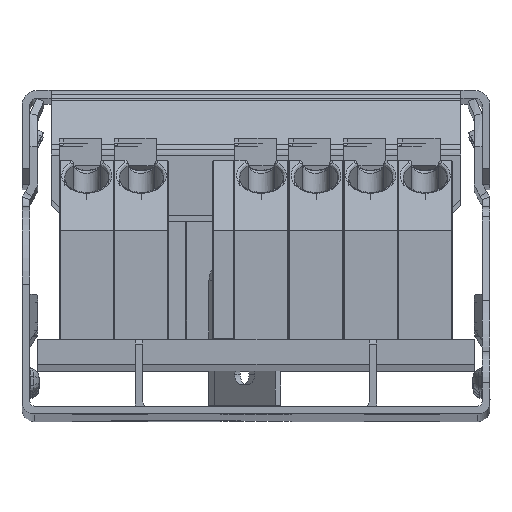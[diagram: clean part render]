
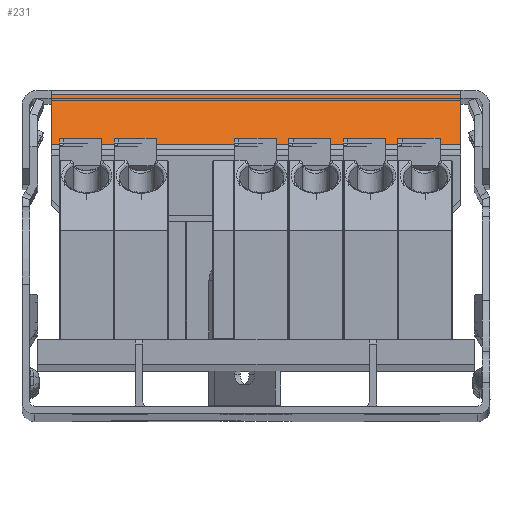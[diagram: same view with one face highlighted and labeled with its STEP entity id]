
A CAD part, top view. The second image highlights one B-rep face of the part: STEP entity #231.
In plain terms, the highlighted planar face has unit normal (0, 0.707, 0.707).
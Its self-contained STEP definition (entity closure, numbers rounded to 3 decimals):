
#129 = CARTESIAN_POINT ( 'NONE',  ( 1.865, -152.447, 168.448 ) ) ;
#231 = ADVANCED_FACE ( 'NONE', ( #37123 ), #27112, .T. ) ;
#253 = LINE ( 'NONE', #4051, #38487 ) ;
#3594 = LINE ( 'NONE', #4380, #22746 ) ;
#4051 = CARTESIAN_POINT ( 'NONE',  ( 28.135, -154.026, 170.026 ) ) ;
#4380 = CARTESIAN_POINT ( 'NONE',  ( 15., -152.447, 168.448 ) ) ;
#5010 = CARTESIAN_POINT ( 'NONE',  ( 1.865, -154.026, 170.026 ) ) ;
#5556 = CARTESIAN_POINT ( 'NONE',  ( 28.661, -152.232, 168.232 ) ) ;
#6738 = VECTOR ( 'NONE', #30178, 1000. ) ;
#7044 = EDGE_LOOP ( 'NONE', ( #27822, #17769, #29243, #29688 ) ) ;
#8439 = CARTESIAN_POINT ( 'NONE',  ( 15., -155.604, 171.604 ) ) ;
#9141 = DIRECTION ( 'NONE',  ( 0., 0.707, 0.707 ) ) ;
#9205 = CARTESIAN_POINT ( 'NONE',  ( 1.865, -155.604, 171.604 ) ) ;
#17769 = ORIENTED_EDGE ( 'NONE', *, *, #33867, .F. ) ;
#20080 = CARTESIAN_POINT ( 'NONE',  ( 28.135, -152.447, 168.448 ) ) ;
#22746 = VECTOR ( 'NONE', #40346, 1000. ) ;
#24305 = CARTESIAN_POINT ( 'NONE',  ( 28.135, -155.604, 171.604 ) ) ;
#26134 = DIRECTION ( 'NONE',  ( -1., 0., 0. ) ) ;
#27112 = PLANE ( 'NONE',  #36592 ) ;
#27822 = ORIENTED_EDGE ( 'NONE', *, *, #45829, .T. ) ;
#29216 = DIRECTION ( 'NONE',  ( 0., -0.707, 0.707 ) ) ;
#29243 = ORIENTED_EDGE ( 'NONE', *, *, #31905, .F. ) ;
#29688 = ORIENTED_EDGE ( 'NONE', *, *, #29758, .F. ) ;
#29758 = EDGE_CURVE ( 'NONE', #44894, #37205, #253, .T. ) ;
#30178 = DIRECTION ( 'NONE',  ( 0., 0.707, -0.707 ) ) ;
#31905 = EDGE_CURVE ( 'NONE', #37205, #46045, #35050, .T. ) ;
#33867 = EDGE_CURVE ( 'NONE', #46045, #44511, #44957, .T. ) ;
#34338 = DIRECTION ( 'NONE',  ( -1., 0., 0. ) ) ;
#35050 = LINE ( 'NONE', #8439, #43433 ) ;
#36592 = AXIS2_PLACEMENT_3D ( 'NONE', #5556, #9141, #34338 ) ;
#37123 = FACE_OUTER_BOUND ( 'NONE', #7044, .T. ) ;
#37205 = VERTEX_POINT ( 'NONE', #24305 ) ;
#38487 = VECTOR ( 'NONE', #29216, 1000. ) ;
#40346 = DIRECTION ( 'NONE',  ( -1., 0., 0. ) ) ;
#43433 = VECTOR ( 'NONE', #26134, 1000. ) ;
#44511 = VERTEX_POINT ( 'NONE', #129 ) ;
#44894 = VERTEX_POINT ( 'NONE', #20080 ) ;
#44957 = LINE ( 'NONE', #5010, #6738 ) ;
#45829 = EDGE_CURVE ( 'NONE', #44894, #44511, #3594, .T. ) ;
#46045 = VERTEX_POINT ( 'NONE', #9205 ) ;
